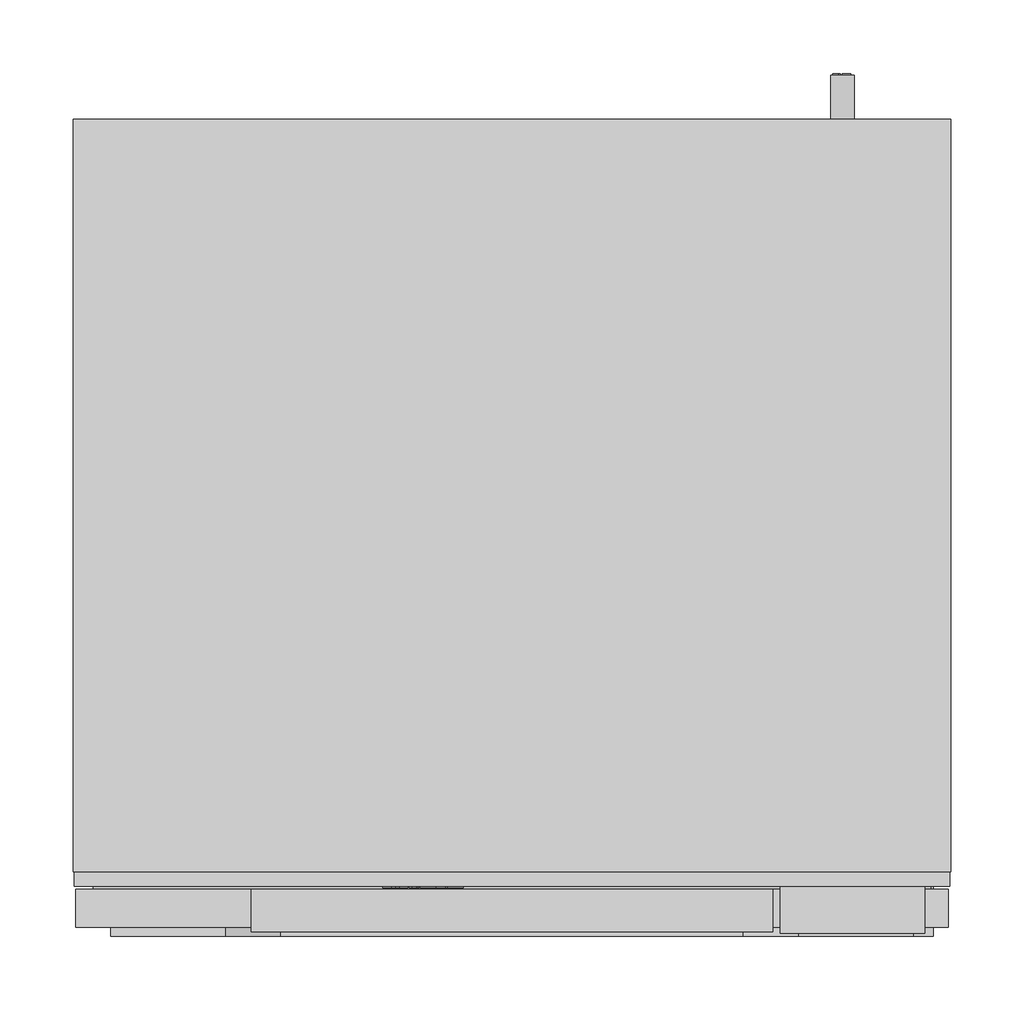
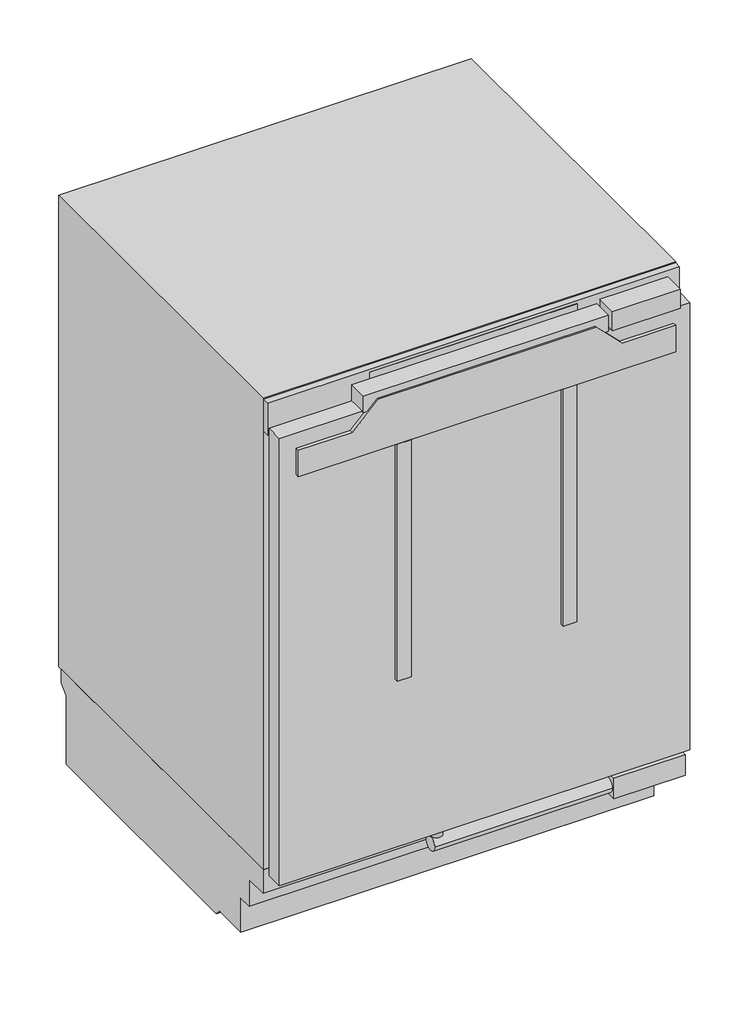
# Not in any storey: 1 proxy.
"""IFC4 building model written with IfcOpenShell, lengths in millimetres."""

from ifc_helpers import new_model, si_unit, origin, place, context, project, spatial, transform, mapped, element, save
from components import specialty_equipment_7cf81c36

model = new_model("IFC4")

# Units and contexts
model_context = context("Model", 3, world=origin())
ifc_project = project(units=[si_unit("LENGTHUNIT", "METRE", prefix="MILLI")], contexts=[model_context])

# Site, building
site = spatial("IfcSite", under=ifc_project)
building = spatial("IfcBuilding", under=site)

# Proxy
placement = place(None, origin())
specialty_equipment_shape = specialty_equipment_7cf81c36(model_context)
element("IfcBuildingElementProxy", 1, Name="12519190_EU1_KU7135C : 36713510_EU1_12519190_KU7135C", ObjectType="12519190_EU1_KU7135C : 36713510_EU1_12519190_KU7135C", at=placement, inside=building, context=model_context, shape_type="MappedRepresentation", body=[
    mapped(specialty_equipment_shape, transform((0.0, 0.0, 0.0), x_axis=(1.0, 0.0, 0.0), y_axis=(0.0, 1.0, 0.0), z_axis=(0.0, 0.0, 1.0))),
])

save(model, "model.ifc")
